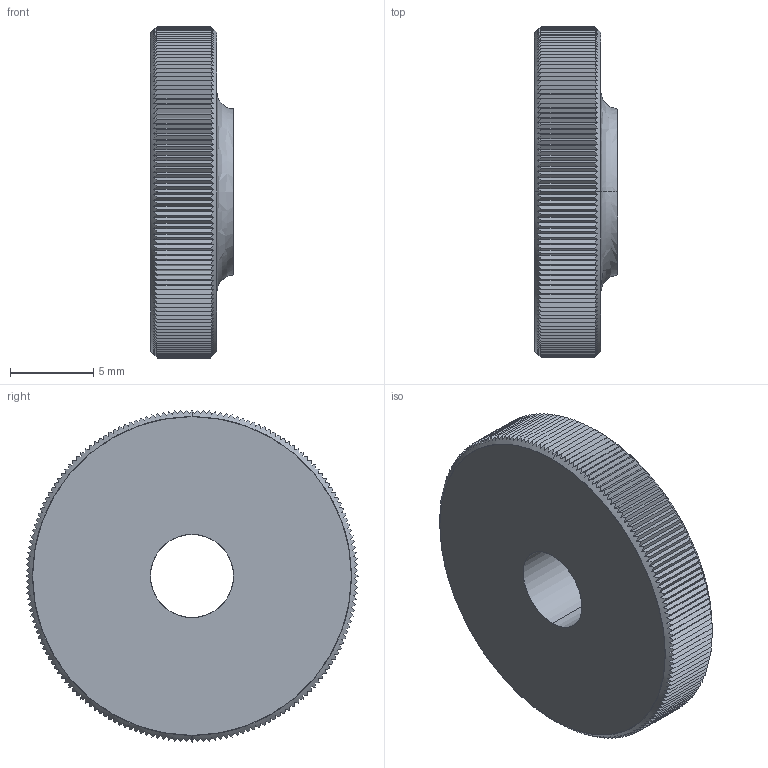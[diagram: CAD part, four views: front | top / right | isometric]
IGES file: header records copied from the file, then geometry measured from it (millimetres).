
Start section: SolidWorks IGES file using analytic representation for surfaces
Global section: file name: C:\Documents and Settings\IANO\Desktop\Temp File\Process pending\EXISTING\37120_v2\37120_v2_20170629_IGES\37120.W0005.igs; native system: SolidWorks 2009; preprocessor: SolidWorks 2009; author: IANO; date: 170627.122112; units: millimetre
Bounding box: 5 x 20 x 20 mm (x, y, z)
Surface area: 1010.7 mm2 (no closed solid volume)
Topology: 0 solids, 0 shells, 371 faces, 2380 edges, 2380 vertices
Faces by surface type: bspline 365, revolution 6
